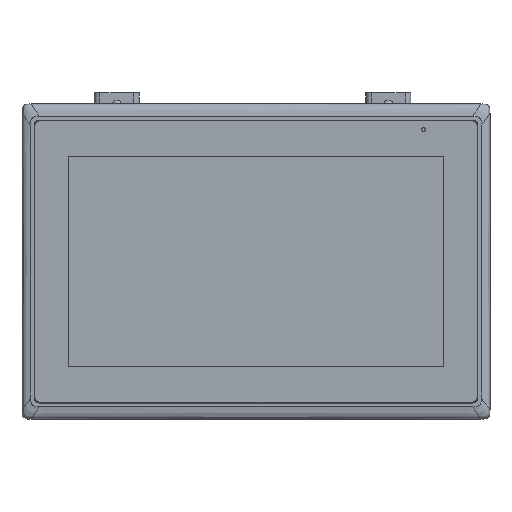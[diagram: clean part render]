
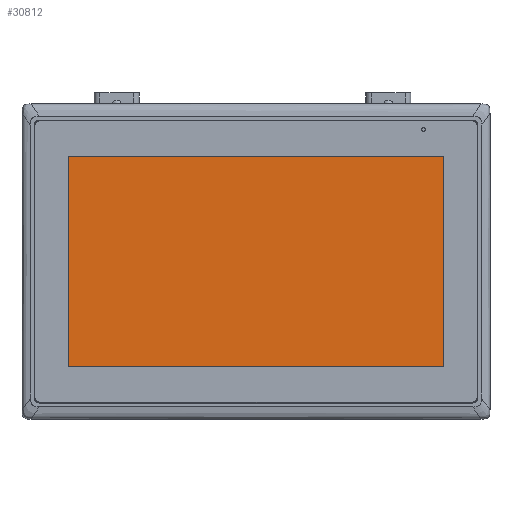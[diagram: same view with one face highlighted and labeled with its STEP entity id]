
A CAD part, top view. The second image highlights one B-rep face of the part: STEP entity #30812.
In plain terms, the highlighted planar face has unit normal (0, 0, 1).
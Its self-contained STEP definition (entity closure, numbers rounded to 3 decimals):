
#25698 = ORIENTED_EDGE ( 'NONE', *, *, #112626, .T. ) ;
#30812 = ADVANCED_FACE ( 'NONE', ( #155011 ), #100135, .T. ) ;
#53293 = AXIS2_PLACEMENT_3D ( 'NONE', #248088, #136590, #325064 ) ;
#55979 = VERTEX_POINT ( 'NONE', #355519 ) ;
#77273 = DIRECTION ( 'NONE',  ( 0., 1., 0. ) ) ;
#100135 = PLANE ( 'NONE',  #53293 ) ;
#103291 = CARTESIAN_POINT ( 'NONE',  ( -76.015, -44.515, 3.95 ) ) ;
#104150 = LINE ( 'NONE', #327309, #247642 ) ;
#112626 = EDGE_CURVE ( 'NONE', #55979, #273770, #104150, .T. ) ;
#119963 = DIRECTION ( 'NONE',  ( 1., 0., 0. ) ) ;
#122027 = CARTESIAN_POINT ( 'NONE',  ( -76.015, 42.175, 3.95 ) ) ;
#126651 = CARTESIAN_POINT ( 'NONE',  ( 78.895, -44.515, 3.95 ) ) ;
#127105 = LINE ( 'NONE', #103291, #266437 ) ;
#128124 = CARTESIAN_POINT ( 'NONE',  ( 78.895, -44.515, 3.95 ) ) ;
#136590 = DIRECTION ( 'NONE',  ( 0., 0., 1. ) ) ;
#147003 = EDGE_CURVE ( 'NONE', #306274, #55979, #327782, .T. ) ;
#148416 = VECTOR ( 'NONE', #77273, 1000. ) ;
#155011 = FACE_OUTER_BOUND ( 'NONE', #322832, .T. ) ;
#165079 = EDGE_CURVE ( 'NONE', #171991, #306274, #198679, .T. ) ;
#171991 = VERTEX_POINT ( 'NONE', #224049 ) ;
#198679 = LINE ( 'NONE', #226081, #323072 ) ;
#213008 = DIRECTION ( 'NONE',  ( 0., -1., 0. ) ) ;
#215685 = DIRECTION ( 'NONE',  ( -1., 0., 0. ) ) ;
#223709 = ORIENTED_EDGE ( 'NONE', *, *, #147003, .T. ) ;
#224049 = CARTESIAN_POINT ( 'NONE',  ( -76.015, -44.515, 3.95 ) ) ;
#226081 = CARTESIAN_POINT ( 'NONE',  ( 78.895, -44.515, 3.95 ) ) ;
#235078 = ORIENTED_EDGE ( 'NONE', *, *, #165079, .T. ) ;
#247642 = VECTOR ( 'NONE', #215685, 1000. ) ;
#248088 = CARTESIAN_POINT ( 'NONE',  ( 1.44, -1.17, 3.95 ) ) ;
#266437 = VECTOR ( 'NONE', #213008, 1000. ) ;
#273770 = VERTEX_POINT ( 'NONE', #122027 ) ;
#306274 = VERTEX_POINT ( 'NONE', #128124 ) ;
#312424 = ORIENTED_EDGE ( 'NONE', *, *, #352550, .T. ) ;
#322832 = EDGE_LOOP ( 'NONE', ( #223709, #25698, #312424, #235078 ) ) ;
#323072 = VECTOR ( 'NONE', #119963, 1000. ) ;
#325064 = DIRECTION ( 'NONE',  ( -1., 0., 0. ) ) ;
#327309 = CARTESIAN_POINT ( 'NONE',  ( 78.895, 42.175, 3.95 ) ) ;
#327782 = LINE ( 'NONE', #126651, #148416 ) ;
#352550 = EDGE_CURVE ( 'NONE', #273770, #171991, #127105, .T. ) ;
#355519 = CARTESIAN_POINT ( 'NONE',  ( 78.895, 42.175, 3.95 ) ) ;
